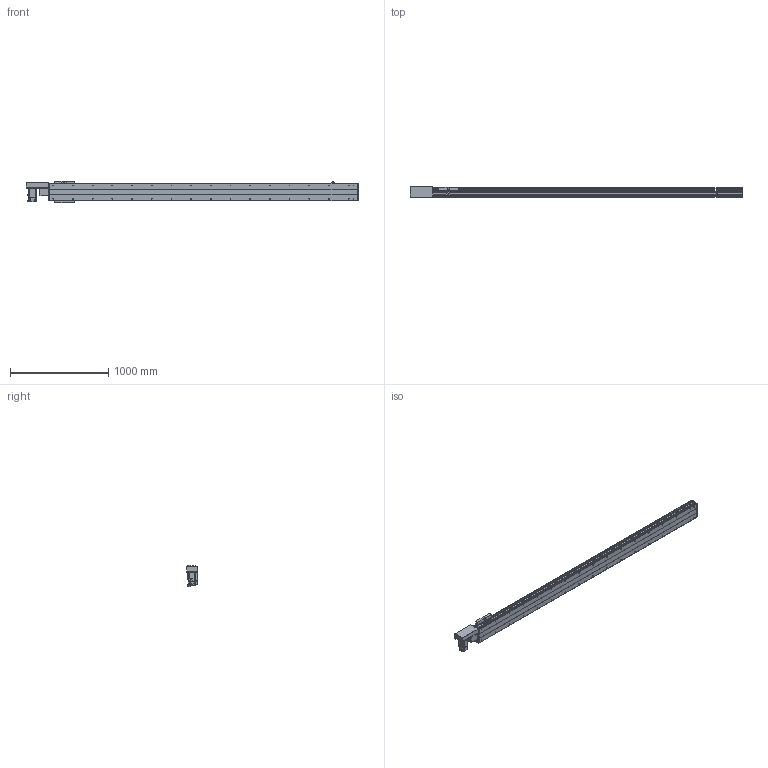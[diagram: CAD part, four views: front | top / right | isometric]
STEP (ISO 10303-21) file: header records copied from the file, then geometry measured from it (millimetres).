
FILE_DESCRIPTION(/* description */ ('STEP AP214'),/* implementation_level */ '2;1');
FILE_NAME(/* name */ 'PBS200-P40-S2750-R-T75-C1-N(0)',/* time_stamp */ '2022-06-11T08:10:58+02:00',/* author */ ('License CC BY-ND 4.0'),/* organization */ ('CADENAS'),/* preprocessor_version */ 'ST-DEVELOPER v18.102',/* originating_system */ 'PARTsolutions',/* authorisation */ ' ');
FILE_SCHEMA (('AUTOMOTIVE_DESIGN {1 0 10303 214 3 1 1}'));
Length unit declared in the file: millimetre
Products named in the file (7): PBS200-P40-S2750-R-T75-C1-N(0); PBS200_sensor; PBS200_plant; PBS200_sliser; T75-p1; PBS200T-R_motors; PBS200-S2750()_body
Assembly tree (8 placements, depth 2):
  PBS200-P40-S2750-R-T75-C1-N(0)
    PBS200_sensor  x3
    PBS200_plant
    PBS200_sliser
    T75-p1
    PBS200T-R_motors
    PBS200-S2750()_body
Bounding box: 3372 x 109 x 221 mm (x, y, z)
Volume: 22164630.9 mm3; surface area: 3542712.8 mm2
Topology: 8 solids, 8 shells, 974 faces, 2464 edges, 1602 vertices
Faces by surface type: plane 592, cylinder 316, cone 66
Full cylindrical faces by diameter (mm): 2.459 x6, 3.242 x4, 4.5 x6, 4.917 x4, 5 x6, 6 x7, 6.6 x8, 6.647 x38, 8 x6, 10 x4, 12 x8, 38 x2, 40 x1, 70 x1
Entity records: 25661 total; most frequent: DIRECTION 4543, CARTESIAN_POINT 4354, ORIENTED_EDGE 4090, EDGE_CURVE 2045, AXIS2_PLACEMENT_3D 1615, VERTEX_POINT 1426, LINE 1313, VECTOR 1313
